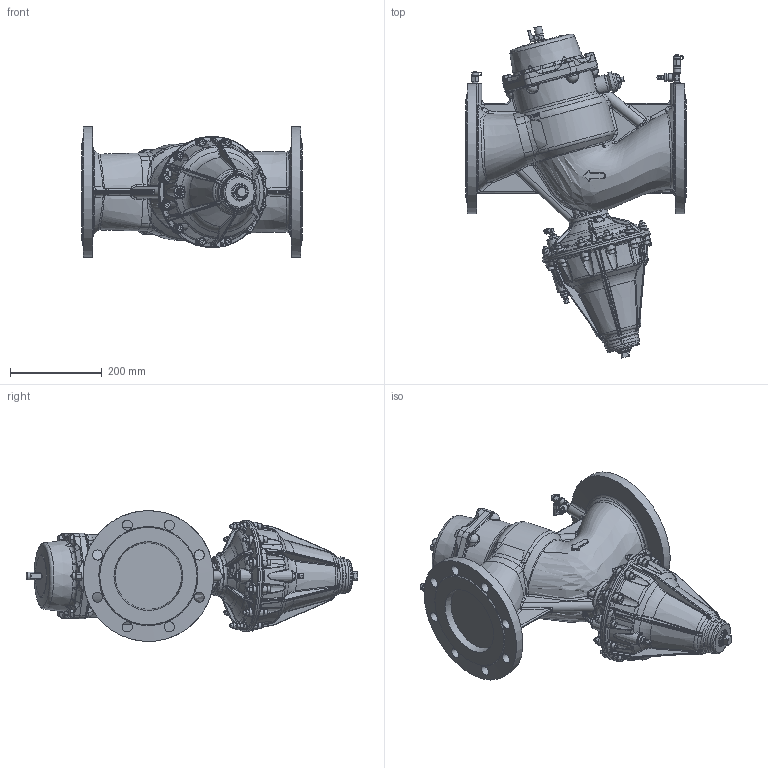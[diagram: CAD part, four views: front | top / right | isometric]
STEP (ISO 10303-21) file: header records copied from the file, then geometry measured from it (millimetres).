
FILE_DESCRIPTION (( 'STEP AP203' ), '1' );
FILE_NAME ('DL15016.STEP', '2014-10-02T13:09:30', ( 'luca.saino' ), ( 'Hewlett-Packard Company' ), 'SwSTEP 2.0', 'SolidWorks 2012', '' );
FILE_SCHEMA (( 'CONFIG_CONTROL_DESIGN' ));
Length unit declared in the file: millimetre
Products named in the file (1): DL15016
Bounding box: 480 x 723.8 x 284.76 mm (x, y, z)
Volume: 23124993.2 mm3; surface area: 916893.5 mm2
Topology: 1 solids, 31 shells, 3134 faces, 7457 edges, 4454 vertices
Faces by surface type: bspline 1200, plane 769, cone 483, cylinder 401, torus 231, sphere 50
Full cylindrical faces by diameter (mm): 3 x1, 4 x1, 4.4 x2, 5.5 x2, 5.615 x2, 6.5 x2, 6.75 x3, 7.4 x1, 7.895 x1, 8 x36, 8.5 x25, 8.9 x4, 9.322 x2, 9.476 x2, 9.6 x2, 9.7 x1, 9.8 x3, 10 x1, 11.5 x2, 11.7 x1, 12 x1, 12.5 x1, 13 x12, 13.15 x1, 13.157 x2, 15 x2, 15.6 x1, 16 x2, 16.6 x1, 16.8 x2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
Entity records: 149563 total; most frequent: CARTESIAN_POINT 89204, ORIENTED_EDGE 14088, DIRECTION 9995, EDGE_CURVE 7044, AXIS2_PLACEMENT_3D 4313, VERTEX_POINT 4298, EDGE_LOOP 3528, FACE_OUTER_BOUND 3288
